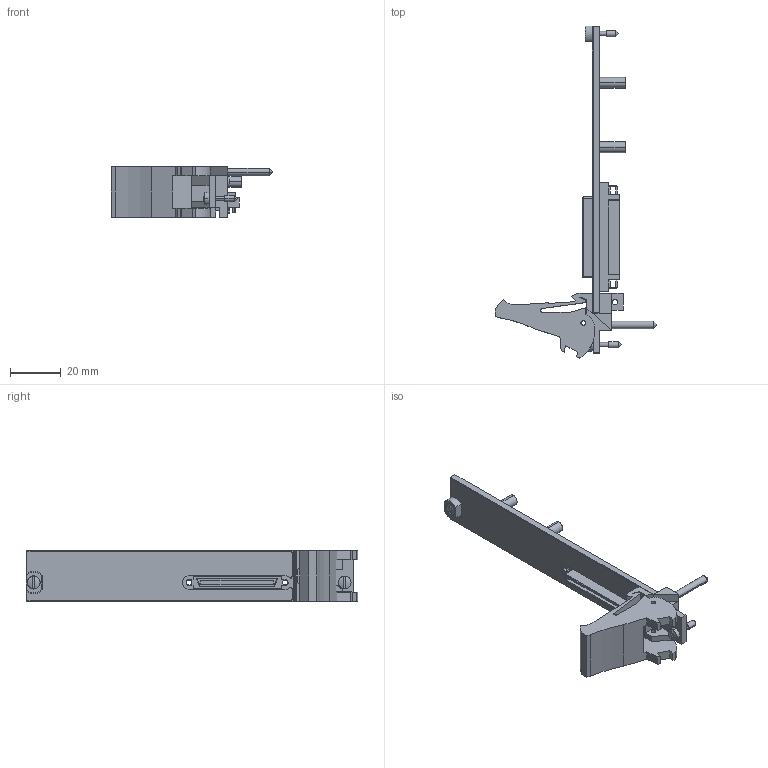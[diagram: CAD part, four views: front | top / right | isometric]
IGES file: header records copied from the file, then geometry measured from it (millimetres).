
Start section:  PTC IGES file: cu_pxi-6722.igs
Global section: file name: cu_pxi-6722.igs; native system: Pro/ENGINEER by Parametric Technology Corporation; preprocessor: 2010230; author: dkendric; organization: Unknown; date: 20110524.091712; units: inch
Bounding box: 63.53 x 130.62 x 20.02 mm (x, y, z)
Surface area: 14267.4 mm2 (no closed solid volume)
Topology: 0 solids, 0 shells, 346 faces, 1864 edges, 1860 vertices
Faces by surface type: bspline 218, revolution 128
